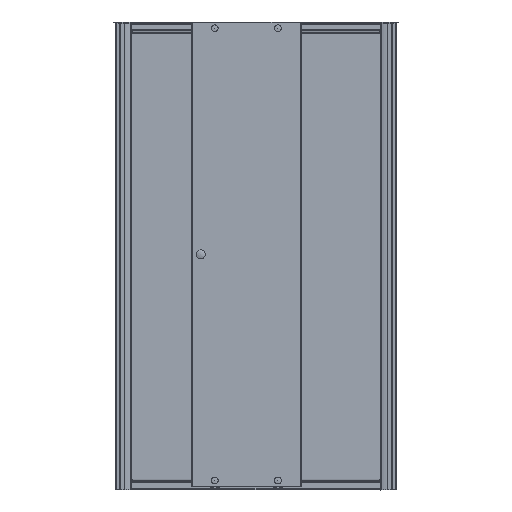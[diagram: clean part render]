
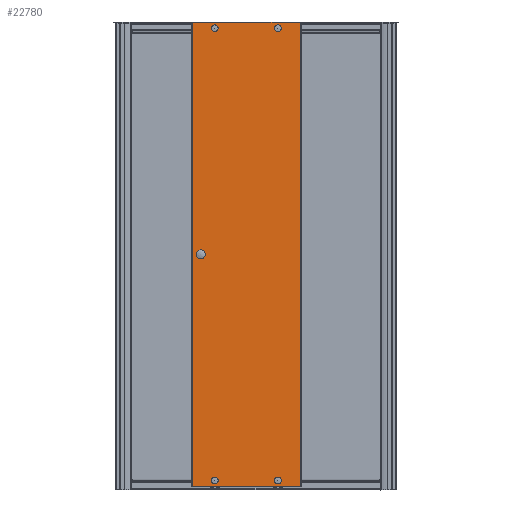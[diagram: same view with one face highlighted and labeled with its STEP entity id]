
A CAD part, left-side view. The second image highlights one B-rep face of the part: STEP entity #22780.
In plain terms, the highlighted planar face has unit normal (-1, 0, 0).
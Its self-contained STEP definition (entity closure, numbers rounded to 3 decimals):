
#575=LINE($,#35900,#2442);
#611=LINE($,#36004,#2478);
#612=LINE($,#36006,#2479);
#613=LINE($,#36007,#2480);
#2442=VECTOR($,#27554,1985.);
#2478=VECTOR($,#27656,460.311);
#2479=VECTOR($,#27657,1985.);
#2480=VECTOR($,#27658,460.311);
#4545=FACE_BOUND($,#6740,.T.);
#4546=FACE_BOUND($,#6741,.T.);
#4547=FACE_BOUND($,#6742,.T.);
#4548=FACE_BOUND($,#6743,.T.);
#4549=FACE_BOUND($,#6744,.T.);
#6740=EDGE_LOOP($,(#15432));
#6741=EDGE_LOOP($,(#15433));
#6742=EDGE_LOOP($,(#15434));
#6743=EDGE_LOOP($,(#15435));
#6744=EDGE_LOOP($,(#15436,#15437,#15438,#15439));
#7843=CIRCLE($,#23990,9.5);
#7923=CIRCLE($,#24148,9.5);
#7930=CIRCLE($,#24159,9.5);
#8019=CIRCLE($,#24336,9.5);
#8876=VERTEX_POINT($,#33628);
#8978=VERTEX_POINT($,#34473);
#8994=VERTEX_POINT($,#34509);
#9139=VERTEX_POINT($,#35566);
#9180=VERTEX_POINT($,#35898);
#9181=VERTEX_POINT($,#35899);
#9216=VERTEX_POINT($,#36003);
#9217=VERTEX_POINT($,#36005);
#11012=EDGE_CURVE($,#8876,#8876,#7843,.T.);
#11180=EDGE_CURVE($,#8978,#8978,#7923,.T.);
#11196=EDGE_CURVE($,#8994,#8994,#7930,.T.);
#11412=EDGE_CURVE($,#9139,#9139,#8019,.T.);
#11477=EDGE_CURVE($,#9180,#9181,#575,.T.);
#11529=EDGE_CURVE($,#9181,#9216,#611,.T.);
#11530=EDGE_CURVE($,#9216,#9217,#612,.T.);
#11531=EDGE_CURVE($,#9180,#9217,#613,.T.);
#15432=ORIENTED_EDGE($,*,*,#11012,.T.);
#15433=ORIENTED_EDGE($,*,*,#11180,.T.);
#15434=ORIENTED_EDGE($,*,*,#11196,.T.);
#15435=ORIENTED_EDGE($,*,*,#11412,.T.);
#15436=ORIENTED_EDGE($,*,*,#11477,.T.);
#15437=ORIENTED_EDGE($,*,*,#11529,.T.);
#15438=ORIENTED_EDGE($,*,*,#11530,.T.);
#15439=ORIENTED_EDGE($,*,*,#11531,.F.);
#20638=PLANE($,#24412);
#22780=ADVANCED_FACE($,(#4545,#4546,#4547,#4548,#4549),#20638,.T.);
#23990=AXIS2_PLACEMENT_3D($,#33629,#26565,#26566);
#24148=AXIS2_PLACEMENT_3D($,#34474,#26942,#26943);
#24159=AXIS2_PLACEMENT_3D($,#34510,#26973,#26974);
#24336=AXIS2_PLACEMENT_3D($,#35567,#27424,#27425);
#24412=AXIS2_PLACEMENT_3D($,#36002,#27654,#27655);
#26565=DIRECTION('center_axis',(1.,0.,0.));
#26566=DIRECTION('ref_axis',(0.,-1.,0.));
#26942=DIRECTION('center_axis',(1.,0.,0.));
#26943=DIRECTION('ref_axis',(0.,-1.,0.));
#26973=DIRECTION('center_axis',(1.,0.,0.));
#26974=DIRECTION('ref_axis',(0.,1.,0.));
#27424=DIRECTION('center_axis',(1.,0.,0.));
#27425=DIRECTION('ref_axis',(0.,1.,0.));
#27554=DIRECTION($,(0.,0.,-1.));
#27654=DIRECTION('center_axis',(-1.,0.,0.));
#27655=DIRECTION('ref_axis',(0.,-1.,0.));
#27656=DIRECTION($,(0.,-1.,0.));
#27657=DIRECTION($,(0.,0.,1.));
#27658=DIRECTION($,(0.,-1.,0.));
#33628=CARTESIAN_POINT('',(796.93,13.386,1985.6));
#33629=CARTESIAN_POINT('Origin',(796.93,3.886,1985.6));
#34473=CARTESIAN_POINT('',(796.93,283.386,1985.6));
#34474=CARTESIAN_POINT('Origin',(796.93,273.886,1985.6));
#34509=CARTESIAN_POINT('',(796.93,-5.614,50.6));
#34510=CARTESIAN_POINT('Origin',(796.93,3.886,50.6));
#35566=CARTESIAN_POINT('',(796.93,264.386,50.6));
#35567=CARTESIAN_POINT('Origin',(796.93,273.886,50.6));
#35898=CARTESIAN_POINT('',(796.93,368.897,2010.6));
#35899=CARTESIAN_POINT('',(796.93,368.897,25.6));
#35900=CARTESIAN_POINT($,(796.93,368.897,25.6));
#36002=CARTESIAN_POINT('Origin',(796.93,373.886,25.6));
#36003=CARTESIAN_POINT('',(796.93,-91.414,25.6));
#36004=CARTESIAN_POINT($,(796.93,373.886,25.6));
#36005=CARTESIAN_POINT('',(796.93,-91.414,2010.6));
#36006=CARTESIAN_POINT($,(796.93,-91.414,1018.1));
#36007=CARTESIAN_POINT($,(796.93,373.886,2010.6));
